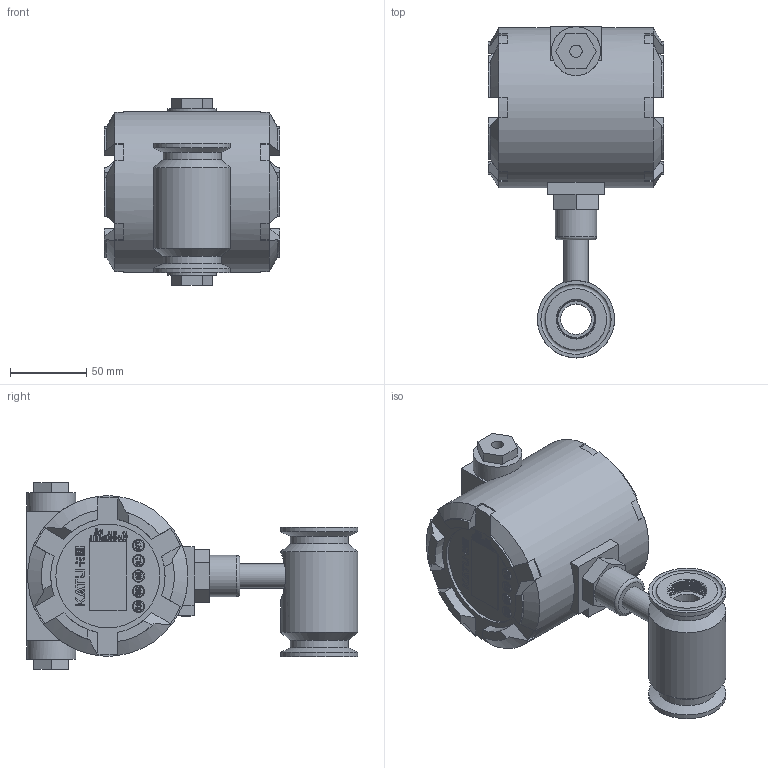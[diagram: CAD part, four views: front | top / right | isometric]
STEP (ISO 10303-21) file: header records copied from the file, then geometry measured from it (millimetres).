
FILE_DESCRIPTION( (''), '2;1');
FILE_NAME( 'QTKC_DN20_tri-clamp_Ex.step', '2024-10-14T11:56:48+08:00', (''), (''), '', '', '');
FILE_SCHEMA (('AUTOMOTIVE_DESIGN { 1 0 10303 214 3 1 1 1 }'));
Length unit declared in the file: millimetre
Products named in the file (1): QTKC DN20_tri-clamp_Ex
Bounding box: 115 x 217.25 x 122.4 mm (x, y, z)
Volume: 1067098.1 mm3; surface area: 104529.8 mm2
Topology: 4 solids, 4 shells, 1347 faces, 3677 edges, 2446 vertices
Faces by surface type: plane 728, extrusion 504, cylinder 76, cone 21, bspline 10, torus 8
Full cylindrical faces by diameter (mm): 3.3 x1, 8 x2, 16 x1, 17 x1, 18.5 x1, 20 x3, 26 x2, 27 x1, 32 x2, 38 x2, 50.5 x3, 68 x1, 105 x1
Entity records: 53344 total; most frequent: CARTESIAN_POINT 21502, ORIENTED_EDGE 7234, DIRECTION 4865, EDGE_CURVE 3617, VECTOR 2787, VERTEX_POINT 2424, LINE 2283, B_SPLINE_CURVE_WITH_KNOTS 1633
